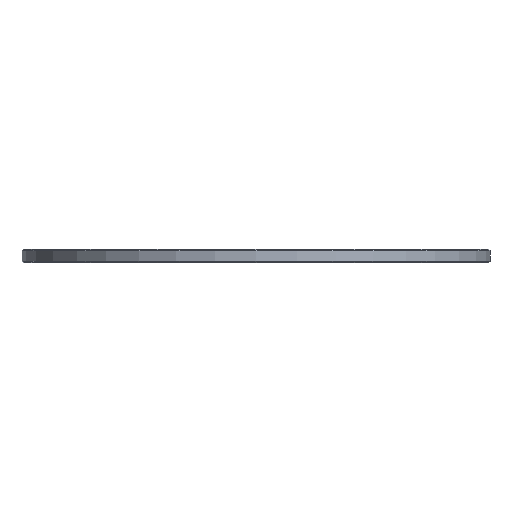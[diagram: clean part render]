
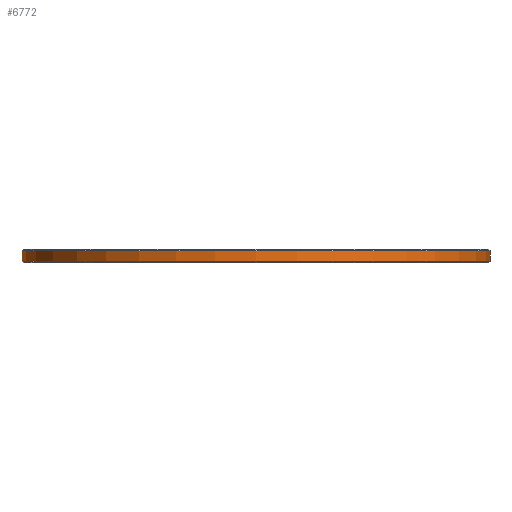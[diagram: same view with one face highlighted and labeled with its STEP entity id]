
A CAD part, front view. The second image highlights one B-rep face of the part: STEP entity #6772.
In plain terms, the highlighted cylindrical face has radius 56.25 mm (diameter 112.5 mm), a full revolution.
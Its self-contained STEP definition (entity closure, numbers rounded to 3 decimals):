
#89=CYLINDRICAL_SURFACE('',#7222,56.25);
#687=FACE_OUTER_BOUND('',#1098,.T.);
#1098=EDGE_LOOP('',(#6211,#6212,#6213,#6214));
#1226=CIRCLE('',#7221,56.25);
#1227=CIRCLE('',#7223,56.25);
#2049=LINE('',#10834,#2888);
#2888=VECTOR('',#8872,56.25);
#3512=VERTEX_POINT('',#10828);
#3513=VERTEX_POINT('',#10832);
#4416=EDGE_CURVE('',#3512,#3512,#1226,.T.);
#4418=EDGE_CURVE('',#3513,#3513,#1227,.T.);
#4419=EDGE_CURVE('',#3513,#3512,#2049,.T.);
#6211=ORIENTED_EDGE('',*,*,#4418,.F.);
#6212=ORIENTED_EDGE('',*,*,#4419,.T.);
#6213=ORIENTED_EDGE('',*,*,#4416,.F.);
#6214=ORIENTED_EDGE('',*,*,#4419,.F.);
#6772=ADVANCED_FACE('',(#687),#89,.T.);
#7221=AXIS2_PLACEMENT_3D('',#10829,#8865,#8866);
#7222=AXIS2_PLACEMENT_3D('',#10831,#8868,#8869);
#7223=AXIS2_PLACEMENT_3D('',#10833,#8870,#8871);
#8865=DIRECTION('center_axis',(0.,0.,-1.));
#8866=DIRECTION('ref_axis',(1.,0.,0.));
#8868=DIRECTION('center_axis',(0.,0.,1.));
#8869=DIRECTION('ref_axis',(1.,0.,0.));
#8870=DIRECTION('center_axis',(0.,0.,1.));
#8871=DIRECTION('ref_axis',(1.,0.,0.));
#8872=DIRECTION('',(0.,0.,-1.));
#10828=CARTESIAN_POINT('',(-56.25,0.,0.3));
#10829=CARTESIAN_POINT('Origin',(0.,0.,0.3));
#10831=CARTESIAN_POINT('Origin',(0.,0.,0.));
#10832=CARTESIAN_POINT('',(-56.25,0.,2.825));
#10833=CARTESIAN_POINT('Origin',(0.,0.,2.825));
#10834=CARTESIAN_POINT('',(-56.25,0.,0.));
